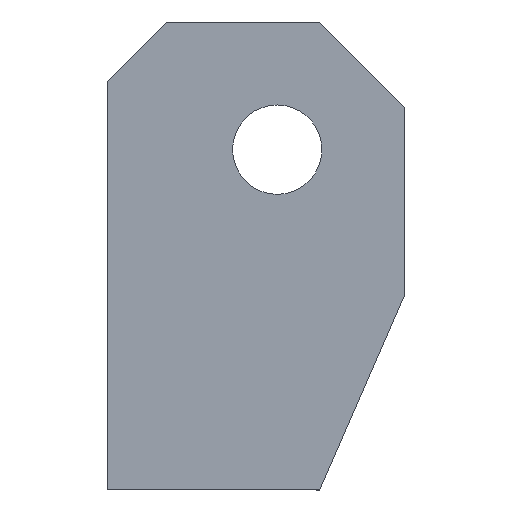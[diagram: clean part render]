
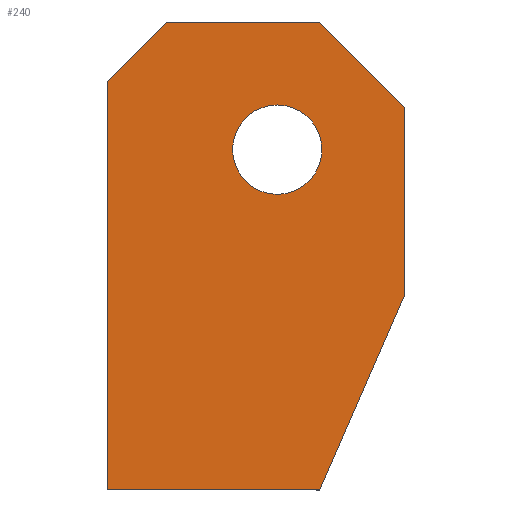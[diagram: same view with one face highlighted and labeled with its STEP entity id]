
A CAD part, top view. The second image highlights one B-rep face of the part: STEP entity #240.
In plain terms, the highlighted planar face has unit normal (0, 0, 1).
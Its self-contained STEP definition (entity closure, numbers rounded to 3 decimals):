
#62=FACE_BOUND('',#92,.T.);
#71=PLANE('',#275);
#81=FACE_OUTER_BOUND('',#91,.T.);
#91=EDGE_LOOP('',(#215,#216,#217,#218,#219,#220,#221));
#92=EDGE_LOOP('',(#222));
#98=LINE('',#357,#120);
#101=LINE('',#363,#123);
#104=LINE('',#369,#126);
#107=LINE('',#375,#129);
#110=LINE('',#381,#132);
#113=LINE('',#387,#135);
#116=LINE('',#391,#138);
#120=VECTOR('',#296,10.);
#123=VECTOR('',#301,10.);
#126=VECTOR('',#306,10.);
#129=VECTOR('',#311,10.);
#132=VECTOR('',#316,10.);
#135=VECTOR('',#321,10.);
#138=VECTOR('',#326,10.);
#139=CIRCLE('',#266,5.25);
#143=VERTEX_POINT('',#345);
#147=VERTEX_POINT('',#354);
#148=VERTEX_POINT('',#356);
#150=VERTEX_POINT('',#362);
#152=VERTEX_POINT('',#368);
#154=VERTEX_POINT('',#374);
#156=VERTEX_POINT('',#380);
#158=VERTEX_POINT('',#386);
#159=EDGE_CURVE('',#143,#143,#139,.T.);
#164=EDGE_CURVE('',#148,#147,#98,.T.);
#167=EDGE_CURVE('',#150,#148,#101,.T.);
#170=EDGE_CURVE('',#152,#150,#104,.T.);
#173=EDGE_CURVE('',#154,#152,#107,.T.);
#176=EDGE_CURVE('',#156,#154,#110,.T.);
#179=EDGE_CURVE('',#158,#156,#113,.T.);
#182=EDGE_CURVE('',#147,#158,#116,.T.);
#215=ORIENTED_EDGE('',*,*,#182,.T.);
#216=ORIENTED_EDGE('',*,*,#179,.T.);
#217=ORIENTED_EDGE('',*,*,#176,.T.);
#218=ORIENTED_EDGE('',*,*,#173,.T.);
#219=ORIENTED_EDGE('',*,*,#170,.T.);
#220=ORIENTED_EDGE('',*,*,#167,.T.);
#221=ORIENTED_EDGE('',*,*,#164,.T.);
#222=ORIENTED_EDGE('',*,*,#159,.T.);
#240=ADVANCED_FACE('',(#81,#62),#71,.T.);
#266=AXIS2_PLACEMENT_3D('',#346,#287,#288);
#275=AXIS2_PLACEMENT_3D('',#392,#327,#328);
#287=DIRECTION('center_axis',(0.,0.,-1.));
#288=DIRECTION('ref_axis',(-1.,0.,0.));
#296=DIRECTION('',(0.399,0.917,0.));
#301=DIRECTION('',(1.,0.,0.));
#306=DIRECTION('',(0.,-1.,0.));
#311=DIRECTION('',(-0.707,-0.707,0.));
#316=DIRECTION('',(-1.,0.,0.));
#321=DIRECTION('',(-0.707,0.707,0.));
#326=DIRECTION('',(0.,1.,0.));
#327=DIRECTION('center_axis',(0.,0.,1.));
#328=DIRECTION('ref_axis',(1.,0.,0.));
#345=CARTESIAN_POINT('',(-9.75,40.,0.25));
#346=CARTESIAN_POINT('Origin',(-15.,40.,0.25));
#354=CARTESIAN_POINT('',(0.,23.,0.25));
#356=CARTESIAN_POINT('',(-10.,0.,0.25));
#357=CARTESIAN_POINT('',(-10.,0.,0.25));
#362=CARTESIAN_POINT('',(-35.,0.,0.25));
#363=CARTESIAN_POINT('',(-72.936,0.,0.25));
#368=CARTESIAN_POINT('',(-35.,48.,0.25));
#369=CARTESIAN_POINT('',(-35.,48.,0.25));
#374=CARTESIAN_POINT('',(-28.,55.,0.25));
#375=CARTESIAN_POINT('',(-28.,55.,0.25));
#380=CARTESIAN_POINT('',(-10.,55.,0.25));
#381=CARTESIAN_POINT('',(-10.,55.,0.25));
#386=CARTESIAN_POINT('',(0.,45.,0.25));
#387=CARTESIAN_POINT('',(0.,45.,0.25));
#391=CARTESIAN_POINT('',(0.,23.,0.25));
#392=CARTESIAN_POINT('Origin',(-17.5,27.5,0.25));
